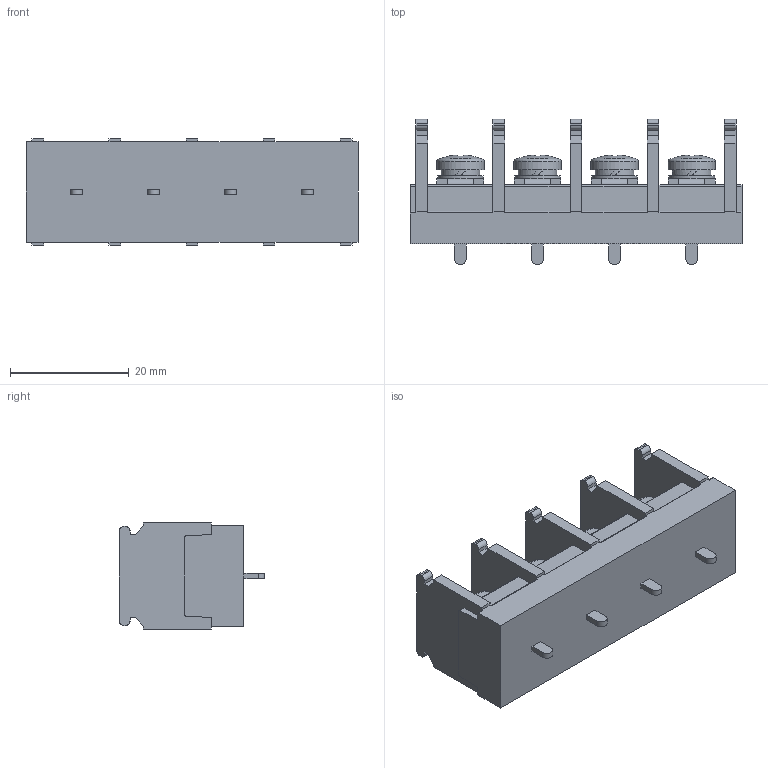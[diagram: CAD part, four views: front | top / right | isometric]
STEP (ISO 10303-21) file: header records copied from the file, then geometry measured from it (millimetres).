
FILE_DESCRIPTION(/* description */ ('Alibre Inc.'),/* implementation_level */ '2;1');
FILE_NAME(/* name */ 'export0',/* time_stamp */ '2016-08-02T19:07:45+09:00',/* author */ (''),/* organization */ (''),/* preprocessor_version */ 'ST-DEVELOPER v14',/* originating_system */ 'Alibre',/* authorisation */ '');
FILE_SCHEMA (('CONFIG_CONTROL_DESIGN'));
Length unit declared in the file: centimetre
Products named in the file (1): ID_1
Bounding box: 56 x 24.5 x 18 mm (x, y, z)
Volume: 11642.7 mm3; surface area: 6451.9 mm2
Topology: 1 solids, 21 shells, 746 faces, 1972 edges, 1304 vertices
Faces by surface type: plane 538, bspline 104, cylinder 76, cone 20, sphere 4, torus 4
Full cylindrical faces by diameter (mm): 4 x4, 6.5 x4, 7.7 x4, 8 x4
Entity records: 22141 total; most frequent: CARTESIAN_POINT 4979, ORIENTED_EDGE 3880, DIRECTION 2650, EDGE_CURVE 1940, VECTOR 1406, LINE 1406, VERTEX_POINT 1292, AXIS2_PLACEMENT_3D 873
